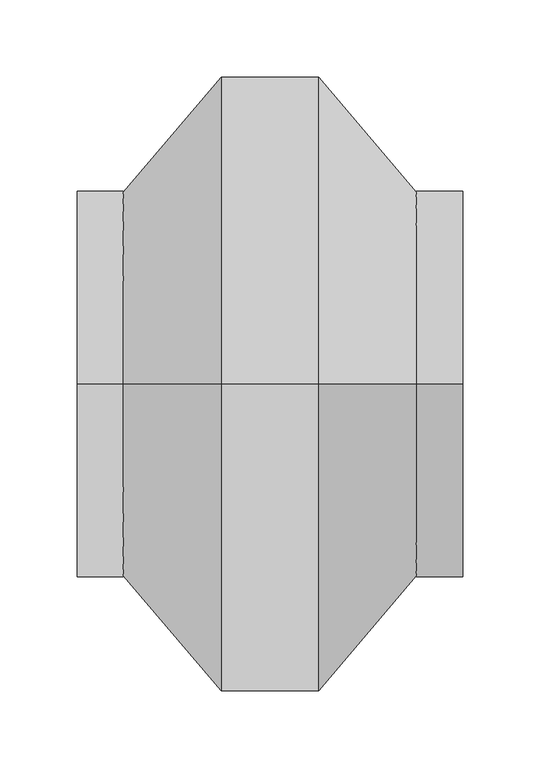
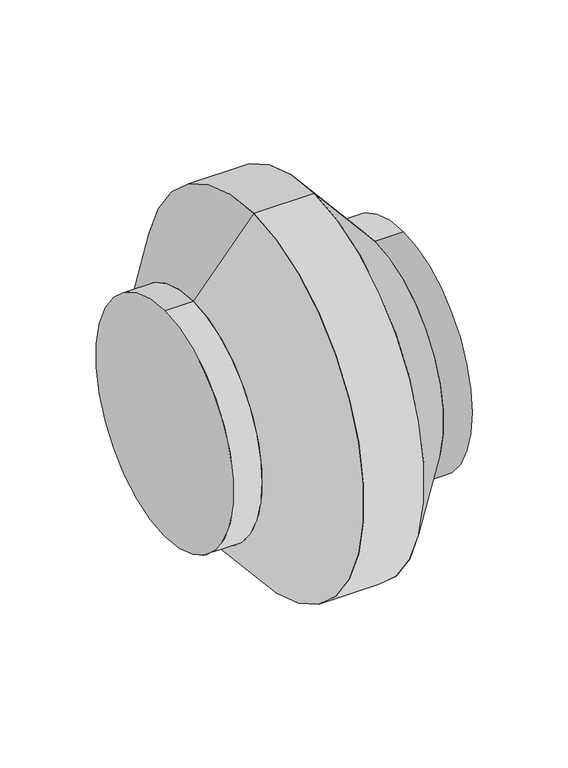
"""IFC4 building model written with IfcOpenShell, lengths in millimetres: proxy geometry, КЦКП : КЦКП."""

import ifcopenshell
import ifcopenshell.guid

model = None  # the IFC model being written
_history = None  # IfcOwnerHistory: only IFC2X3 demands one
_inside = {}  # id of a spatial element -> (the spatial element, [elements in it])
_under = {}  # id of a project, library or spatial element -> (it, [spatial elements below it])
_declared = {}  # id of a project -> (the project, [libraries it declares])
_typed = {}  # id of a type object -> (the type object, [elements of that type])
_made_of = {}  # id of a material, layer set ... -> (it, [elements and type objects made of it])


def new_model(schema):
    """Start an empty IFC model of exactly this schema.

    Asked for "IFC4X3", IfcOpenShell would pick the latest addendum, in which some entities
    have other attributes; the version numbers below select the first issue.
    IFC2X3 requires an IfcOwnerHistory on every rooted entity: one is made here for all.
    """
    global model, _history
    if schema == "IFC4X3":
        model = ifcopenshell.file(schema_version=(4, 3, 0, 0))
    else:
        model = ifcopenshell.file(schema=schema)
    _inside.clear()
    _under.clear()
    _declared.clear()
    _typed.clear()
    _made_of.clear()
    _history = None
    if model.schema == "IFC2X3":
        org = make("IfcOrganization", Name="unknown")
        user = make(
            "IfcPersonAndOrganization",
            ThePerson=make("IfcPerson", FamilyName="unknown"),
            TheOrganization=org,
        )
        app = make(
            "IfcApplication",
            ApplicationDeveloper=org,
            Version="unknown",
            ApplicationFullName="unknown",
            ApplicationIdentifier="unknown",
        )
        _history = make(
            "IfcOwnerHistory",
            OwningUser=user,
            OwningApplication=app,
            ChangeAction="ADDED",
            CreationDate=0,
        )
    return model


def make(cls, **values):
    """One entity of the class cls with the attributes given. An attribute that is None is left unset."""
    return model.create_entity(
        cls, **{name: value for name, value in values.items() if value is not None}
    )


def rooted(cls, **values):
    """An entity with a GlobalId (a new one), such as an element, a storey or a relation."""
    return make(cls, GlobalId=ifcopenshell.guid.new(), OwnerHistory=_history, **values)


def si_unit(unit_type, name, prefix=None):
    """IfcSIUnit, for example si_unit("LENGTHUNIT", "METRE", prefix="MILLI")."""
    return make("IfcSIUnit", UnitType=unit_type, Prefix=prefix, Name=name)


def assignment(units):
    """IfcUnitAssignment: the units of a project."""
    return None if units is None else make("IfcUnitAssignment", Units=units)


def point(xyz):
    """IfcCartesianPoint."""
    return None if xyz is None else make("IfcCartesianPoint", Coordinates=xyz)


def direction(xyz):
    """IfcDirection."""
    return None if xyz is None else make("IfcDirection", DirectionRatios=xyz)


def frame(location, z_axis=None, x_axis=None):
    """IfcAxis2Placement3D, a coordinate frame: its origin and axes. An axis left out is left unset."""
    return make(
        "IfcAxis2Placement3D",
        Location=point(location),
        Axis=direction(z_axis),
        RefDirection=direction(x_axis),
    )


def frame_2d(location, x_axis=None):
    """IfcAxis2Placement2D, a coordinate frame in the plane: its origin and x axis."""
    return make(
        "IfcAxis2Placement2D", Location=point(location), RefDirection=direction(x_axis)
    )


def origin():
    """The frame at (0, 0, 0) with its axes left unset."""
    return frame((0.0, 0.0, 0.0))


def origin_2d():
    """The frame at (0, 0) in the plane with its x axis left unset."""
    return frame_2d((0.0, 0.0))


def place(relative_to, where):
    """IfcLocalPlacement: puts the frame where relative to a parent placement (None: the world)."""
    return make(
        "IfcLocalPlacement", PlacementRelTo=relative_to, RelativePlacement=where
    )


def context(
    kind, dimensions, precision=None, world=None, true_north=None, identifier=None
):
    """IfcGeometricRepresentationContext, for example the 3D "Model" context."""
    return make(
        "IfcGeometricRepresentationContext",
        ContextIdentifier=identifier,
        ContextType=kind,
        CoordinateSpaceDimension=dimensions,
        Precision=precision,
        WorldCoordinateSystem=world,
        TrueNorth=true_north,
    )


def project(units=None, contexts=None):
    """IfcProject with its units and contexts."""
    return rooted(
        "IfcProject",
        Name="project",
        RepresentationContexts=contexts,
        UnitsInContext=assignment(units),
    )


def spatial(cls, under=None, at=None, **own):
    """A site, building, storey or space (cls), placed at a placement, below another one or the project."""
    s = rooted(cls, ObjectPlacement=at, **own)
    if under is not None:
        _under.setdefault(under.id(), (under, []))[1].append(s)
    return s


def polyline(points):
    """IfcPolyline through the points."""
    return make("IfcPolyline", Points=[point(p) for p in points])


def circle_curve(where, radius):
    """IfcCircle in the frame where."""
    return make("IfcCircle", Position=where, Radius=radius)


def trimmed(basis, trim1, trim2, sense, master):
    """IfcTrimmedCurve: the piece of a basis curve between two trims."""
    return make(
        "IfcTrimmedCurve",
        BasisCurve=basis,
        Trim1=trim1,
        Trim2=trim2,
        SenseAgreement=sense,
        MasterRepresentation=master,
    )


def segment(curve, same_sense, transition):
    """IfcCompositeCurveSegment."""
    return make(
        "IfcCompositeCurveSegment",
        Transition=transition,
        SameSense=same_sense,
        ParentCurve=curve,
    )


def composite_curve(segments, self_intersect=None):
    """IfcCompositeCurve: segments joined end to end."""
    return make("IfcCompositeCurve", Segments=segments, SelfIntersect=self_intersect)


def outline(outer, holes=None, kind="AREA"):
    """IfcArbitraryClosedProfileDef: a profile drawn as a closed curve; with holes, ...WithVoids."""
    if holes is None:
        return make("IfcArbitraryClosedProfileDef", ProfileType=kind, OuterCurve=outer)
    return make(
        "IfcArbitraryProfileDefWithVoids",
        ProfileType=kind,
        OuterCurve=outer,
        InnerCurves=holes,
    )


def extrude(swept, where, along, depth):
    """IfcExtrudedAreaSolid: the profile swept, set in the frame where, extruded along a direction by depth."""
    return make(
        "IfcExtrudedAreaSolid",
        SweptArea=swept,
        Position=where,
        ExtrudedDirection=direction(along),
        Depth=depth,
    )


def shape(context_of_items, identifier, shape_type, items):
    """IfcShapeRepresentation: the items that make up one representation, for example the "Body"."""
    return make(
        "IfcShapeRepresentation",
        ContextOfItems=context_of_items,
        RepresentationIdentifier=identifier,
        RepresentationType=shape_type,
        Items=items,
    )


def source(mapping_origin, context_of_items, identifier, shape_type, items):
    """IfcRepresentationMap: a shape defined once, which mapped items show again and again."""
    return make(
        "IfcRepresentationMap",
        MappingOrigin=mapping_origin,
        MappedRepresentation=shape(context_of_items, identifier, shape_type, items),
    )


def transform(
    local_origin,
    x_axis=None,
    y_axis=None,
    z_axis=None,
    scale=None,
    scale2=None,
    scale3=None,
    uniform=True,
):
    """IfcCartesianTransformationOperator3D, or its non-uniform kind. x_axis, y_axis, z_axis: its Axis1, 2, 3."""
    if uniform:
        return make(
            "IfcCartesianTransformationOperator3D",
            Axis1=direction(x_axis),
            Axis2=direction(y_axis),
            LocalOrigin=point(local_origin),
            Scale=scale,
            Axis3=direction(z_axis),
        )
    return make(
        "IfcCartesianTransformationOperator3DnonUniform",
        Axis1=direction(x_axis),
        Axis2=direction(y_axis),
        LocalOrigin=point(local_origin),
        Scale=scale,
        Axis3=direction(z_axis),
        Scale2=scale2,
        Scale3=scale3,
    )


def mapped(mapping_source, mapping_target):
    """IfcMappedItem: shows the shape of a source again, moved by a transform."""
    return make(
        "IfcMappedItem", MappingSource=mapping_source, MappingTarget=mapping_target
    )


def made_of(thing, what):
    """Note that an element or type object is made of a material, layer set ...; save() writes the relation."""
    if what is not None:
        _made_of.setdefault(what.id(), (what, []))[1].append(thing)
    return thing


def element(
    cls,
    number,
    at=None,
    inside=None,
    cuts=None,
    type_object=None,
    material=None,
    context=None,
    identifier="Body",
    shape_type=None,
    held_by="IfcProductDefinitionShape",
    body=None,
    shapes=None,
    **own,
):
    """One element of the class cls, such as IfcWall. Its Tag is "e" and its number.

    at: its placement. inside: the storey or other place that contains it. cuts: it is an
    opening in that element (IfcRelVoidsElement). A single representation is given by context,
    identifier, shape_type and body (its items); several are given by shapes. held_by: the class
    of the entity that holds the representations. save() writes the other relations.
    """
    e = rooted(cls, Tag="e%d" % number, ObjectPlacement=at, **own)
    if body is not None:
        shapes = [shape(context, identifier, shape_type, body)]
    if shapes is not None:
        e.Representation = make(held_by, Representations=shapes)
    if inside is not None:
        _inside.setdefault(inside.id(), (inside, []))[1].append(e)
    if cuts is not None:
        rooted(
            "IfcRelVoidsElement", RelatingBuildingElement=cuts, RelatedOpeningElement=e
        )
    if type_object is not None:
        _typed.setdefault(type_object.id(), (type_object, []))[1].append(e)
    return made_of(e, material)


def aggregate(whole, parts):
    """IfcRelAggregates: a whole, such as a stair, and the parts it consists of."""
    return rooted("IfcRelAggregates", RelatingObject=whole, RelatedObjects=parts)


def save(model, path):
    """Write the relations noted so far, then the file.

    IfcRelAggregates (storeys below a building ...), IfcRelContainedInSpatialStructure (elements
    in a storey), IfcRelDefinesByType, IfcRelAssociatesMaterial and IfcRelDeclares: one each for
    every whole, place, type object, material and project.
    """
    for whole, parts in _under.values():
        aggregate(whole, parts)
    for where, things in _inside.values():
        rooted(
            "IfcRelContainedInSpatialStructure",
            RelatedElements=things,
            RelatingStructure=where,
        )
    for kind, things in _typed.values():
        rooted("IfcRelDefinesByType", RelatedObjects=things, RelatingType=kind)
    for what, things in _made_of.values():
        rooted("IfcRelAssociatesMaterial", RelatedObjects=things, RelatingMaterial=what)
    for by, libraries in _declared.values():
        rooted("IfcRelDeclares", RelatingContext=by, RelatedDefinitions=libraries)
    model.write(path)


def plane_surface(at):
    """IfcPlane: the flat surface through the origin of the frame at, square to its z axis."""
    return make("IfcPlane", Position=at)


def revolved_surface(curve, axis_point, axis_direction):
    """IfcSurfaceOfRevolution: the curve turned about the line through axis_point along axis_direction."""
    return make(
        "IfcSurfaceOfRevolution",
        SweptCurve=make("IfcArbitraryOpenProfileDef", ProfileType="CURVE", Curve=curve),
        AxisPosition=make("IfcAxis1Placement", Location=point(axis_point), Axis=direction(axis_direction)),
    )


def advanced_brep(points, edges, surfaces, faces):
    """IfcAdvancedBrep: a solid bounded by faces that lie on surfaces and meet in shared edges.

    An edge is (start, end): straight between two places in points (the first is 0);
    or (start, end, curve); or (start, end, curve, False) where it runs against its curve.
    A face is (place in surfaces, loops), or (place, loops, False) where it looks against
    its surface's normal. A loop lists edges by number (the first is 1), with a minus sign
    where the edge is run from its end to its start. The first loop is the outer one.
    """
    corners = [point(p) for p in points]
    vertices = [make("IfcVertexPoint", VertexGeometry=c) for c in corners]
    made = []
    for start, end, *more in edges:
        made.append(
            make(
                "IfcEdgeCurve",
                EdgeStart=vertices[start],
                EdgeEnd=vertices[end],
                EdgeGeometry=more[0] if more else make("IfcPolyline", Points=[corners[start], corners[end]]),
                SameSense=more[1] if len(more) > 1 else True,
            )
        )
    hull = []
    for where, loops, *sense in faces:
        bounds = []
        for j, loop in enumerate(loops):
            ring = [make("IfcOrientedEdge", EdgeElement=made[abs(k) - 1], Orientation=k > 0) for k in loop]
            bounds.append(
                make(
                    "IfcFaceOuterBound" if j == 0 else "IfcFaceBound",
                    Bound=make("IfcEdgeLoop", EdgeList=ring),
                    Orientation=True,
                )
            )
        hull.append(make("IfcAdvancedFace", Bounds=bounds, FaceSurface=surfaces[where], SameSense=sense[0] if sense else True))
    return make("IfcAdvancedBrep", Outer=make("IfcClosedShell", CfsFaces=hull))


def mechanical_equipment_67b35364(model_context):
    return source(origin(), model_context, "Body", "SolidModel", [
        advanced_brep(
        [(-81.568658, 0.0, -125.0), (-81.568658, 0.0, 125.0), (-144.9019913, 0.0, -200.0), (-144.9019913, 0.0, 200.0)],
        [
            (0, 1, circle_curve(frame((-81.568658, 0.0, 0.0), z_axis=(1.0, 0.0, 0.0), x_axis=(0.0, 0.0, -1.0)), 125.0)),
            (1, 0, circle_curve(frame((-81.568658, 0.0, 0.0), z_axis=(1.0, 0.0, 0.0), x_axis=(0.0, 0.0, 1.0)), 125.0)),
            (2, 3, circle_curve(frame((-144.9019913, 0.0, 0.0), z_axis=(-1.0, 0.0, 0.0), x_axis=(0.0, 0.0, 1.0)), 200.0)),
            (3, 2, circle_curve(frame((-144.9019913, 0.0, 0.0), z_axis=(-1.0, 0.0, 0.0), x_axis=(0.0, 0.0, -1.0)), 200.0)),
            (3, 1),
            (0, 2),
        ],
        [
            plane_surface(frame((-81.568658, 0.0, 0.0), z_axis=(1.0, 0.0, 0.0), x_axis=(0.0, -1.0, 0.0))),
            plane_surface(frame((-144.9019913, 0.0, 0.0), z_axis=(-1.0, 0.0, 0.0), x_axis=(0.0, -1.0, 0.0))),
            revolved_surface(polyline([(-81.568658, 0.0, -125.0000000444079), (-144.9019913, 0.0, -200.0)]), (23.9868976, 0.0, 0.0), (-1.0, 0.0, 0.0)),
            revolved_surface(polyline([(-81.568658, 0.0, 125.0000000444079), (-144.9019913, 0.0, 200.0)]), (23.9868976, 0.0, 0.0), (-1.0, 0.0, 0.0)),
        ],
        [
            (0, [[1, 2]]),
            (1, [[3, 4]]),
            (2, [[-4, 5, -1, 6]]),
            (3, [[-3, -6, -2, -5]]),
        ],
    ),
        extrude(outline(composite_curve([segment(trimmed(circle_curve(origin_2d(), 125.0), [point((0.0, -125.0))], [point((0.0, 125.0))], False, "CARTESIAN"), True, "CONTINUOUS"), segment(trimmed(circle_curve(origin_2d(), 125.0), [point((0.0, 125.0))], [point((0.0, -125.0))], False, "CARTESIAN"), True, "CONTINUOUS")], self_intersect=False)), frame((-81.568658, 0.0, 0.0), z_axis=(1.0, 0.0, 0.0), x_axis=(0.0, 1.0, 0.0)), (0.0, 0.0, 1.0), 30.0),
        extrude(outline(composite_curve([segment(trimmed(circle_curve(origin_2d(), 200.0), [point((0.0, -200.0))], [point((0.0, 200.0))], False, "CARTESIAN"), True, "CONTINUOUS"), segment(trimmed(circle_curve(origin_2d(), 200.0), [point((0.0, 200.0))], [point((0.0, -200.0))], False, "CARTESIAN"), True, "CONTINUOUS")], self_intersect=False)), frame((-208.2353247, 0.0, 0.0), z_axis=(1.0, 0.0, 0.0), x_axis=(0.0, 1.0, 0.0)), (0.0, 0.0, 1.0), 63.3333333),
        advanced_brep(
        [(-271.568658, 0.0, -125.0), (-271.568658, 0.0, 125.0), (-208.2353247, 0.0, -200.0), (-208.2353247, 0.0, 200.0)],
        [
            (0, 1, circle_curve(frame((-271.568658, 0.0, 0.0), z_axis=(-1.0, 0.0, 0.0), x_axis=(0.0, 0.0, -1.0)), 125.0)),
            (1, 0, circle_curve(frame((-271.568658, 0.0, 0.0), z_axis=(-1.0, 0.0, 0.0), x_axis=(0.0, 0.0, 1.0)), 125.0)),
            (2, 3, circle_curve(frame((-208.2353247, 0.0, 0.0), z_axis=(1.0, 0.0, 0.0), x_axis=(0.0, 0.0, 1.0)), 200.0)),
            (3, 2, circle_curve(frame((-208.2353247, 0.0, 0.0), z_axis=(1.0, 0.0, 0.0), x_axis=(0.0, 0.0, -1.0)), 200.0)),
            (2, 0),
            (1, 3),
        ],
        [
            plane_surface(frame((-271.568658, 0.0, 0.0), z_axis=(-1.0, 0.0, 0.0), x_axis=(0.0, 1.0, 0.0))),
            plane_surface(frame((-208.2353247, 0.0, 0.0), z_axis=(1.0, 0.0, 0.0), x_axis=(0.0, 1.0, 0.0))),
            revolved_surface(polyline([(-271.568658, 0.0, 125.00000004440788), (-208.2353247, 0.0, 200.0)]), (-377.1242136, 0.0, 0.0), (1.0, 0.0, 0.0)),
            revolved_surface(polyline([(-271.568658, 0.0, -125.00000004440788), (-208.2353247, 0.0, -200.0)]), (-377.1242136, 0.0, 0.0), (1.0, 0.0, 0.0)),
        ],
        [
            (0, [[1, 2]]),
            (1, [[3, 4]]),
            (2, [[-3, 5, -2, 6]]),
            (3, [[-4, -6, -1, -5]]),
        ],
    ),
        extrude(outline(composite_curve([segment(trimmed(circle_curve(origin_2d(), 125.0), [point((0.0, -125.0))], [point((0.0, 125.0))], False, "CARTESIAN"), True, "CONTINUOUS"), segment(trimmed(circle_curve(origin_2d(), 125.0), [point((0.0, 125.0))], [point((0.0, -125.0))], False, "CARTESIAN"), True, "CONTINUOUS")], self_intersect=False)), frame((-301.568658, 0.0, 0.0), z_axis=(1.0, 0.0, 0.0), x_axis=(0.0, 1.0, 0.0)), (0.0, 0.0, 1.0), 30.0),
    ])


if __name__ == "__main__":
    model = new_model("IFC4")
    model_context = context("Model", 3, world=origin())
    ifc_project = project(units=[si_unit("LENGTHUNIT", "METRE", prefix="MILLI")], contexts=[model_context])
    site = spatial("IfcSite", under=ifc_project)
    building = spatial("IfcBuilding", under=site)
    placement = place(None, origin())
    mechanical_equipment_shape = mechanical_equipment_67b35364(model_context)
    element("IfcBuildingElementProxy", 1, Name="КЦКП : КЦКП", ObjectType="КЦКП : КЦКП", at=placement, inside=building, context=model_context, shape_type="MappedRepresentation", body=[
        mapped(mechanical_equipment_shape, transform((0.0, 0.0, 0.0), x_axis=(1.0, 0.0, 0.0), y_axis=(0.0, 1.0, 0.0), z_axis=(0.0, 0.0, 1.0))),
    ])
    save(model, "model.ifc")
